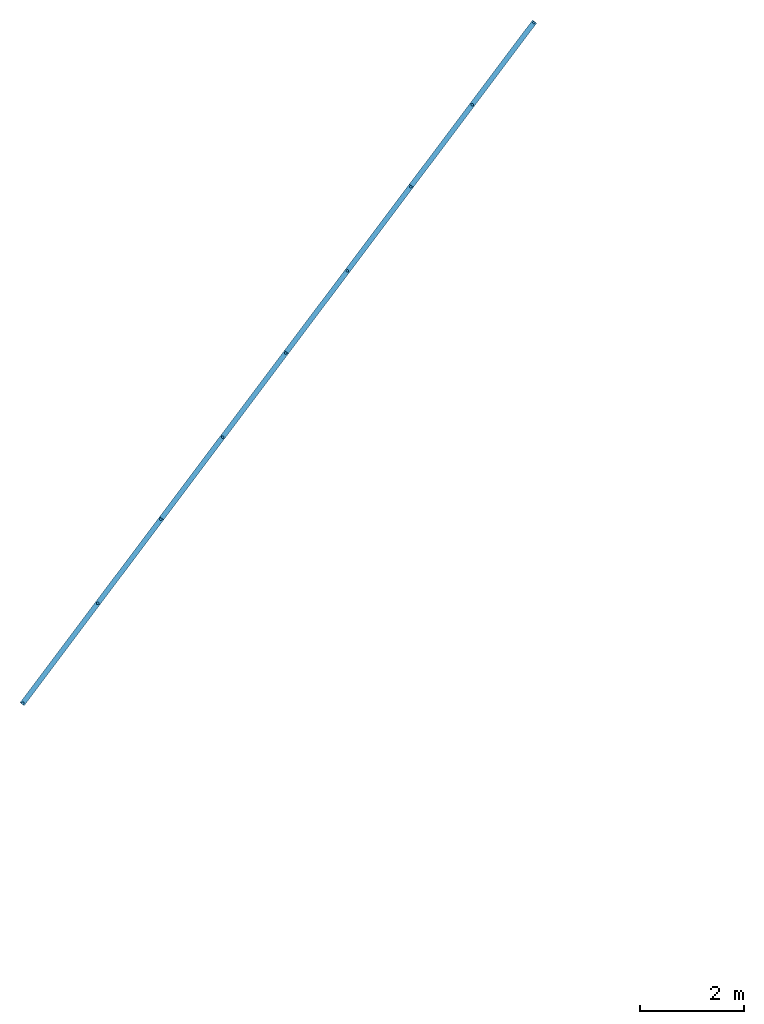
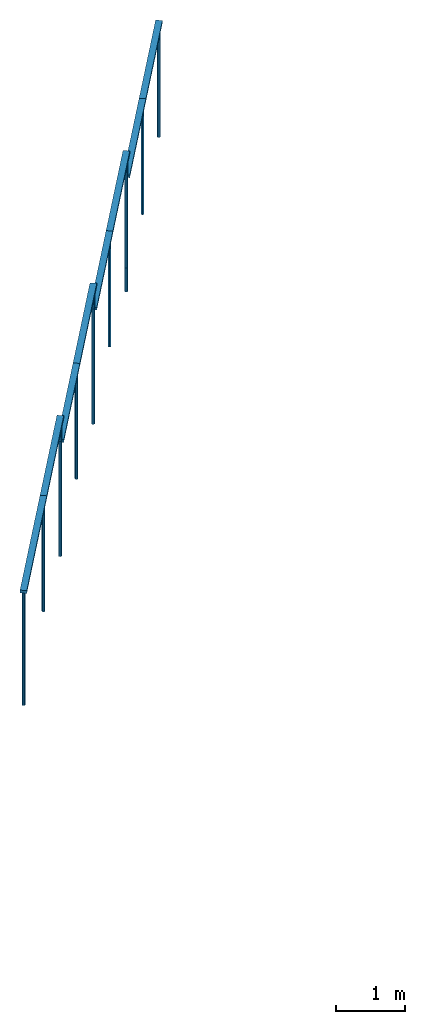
# One storey, part 1 of 3: 20 members, 4 elements without a shape of their own.
"""IFC2X3 building model written with IfcOpenShell, lengths in metres."""

from ifc_helpers import new_model, entity, si_unit, converted_unit, derived_unit, direction, frame, frame_2d, origin, origin_2d_with_axis, place, context, subcontext, project, spatial, rectangle, circle, extrude, source, transform, mapped, material, type_object, type_shapes, element, aggregate, save


model = new_model("IFC2X3")

# Units and contexts
model_context = context("Model", 3, precision=1e-05, world=origin(), true_north=direction((6.123031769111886e-17, 1.0)))
body_context = subcontext(model_context, "Body", "Model", "MODEL_VIEW")
ifc_project = project(units=[si_unit("LENGTHUNIT", "METRE"), si_unit("AREAUNIT", "SQUARE_METRE"), si_unit("VOLUMEUNIT", "CUBIC_METRE"), converted_unit("PLANEANGLEUNIT", "DEGREE", entity("IfcRatioMeasure", 0.017453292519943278), si_unit("PLANEANGLEUNIT", "RADIAN"), dimensions=[0, 0, 0, 0, 0, 0, 0]), si_unit("MASSUNIT", "GRAM", prefix="KILO"), derived_unit("MASSDENSITYUNIT", [(si_unit("MASSUNIT", "GRAM", prefix="KILO"), 1), (si_unit("LENGTHUNIT", "METRE"), -3)]), derived_unit("IONCONCENTRATIONUNIT", [(si_unit("MASSUNIT", "GRAM", prefix="KILO"), 1), (si_unit("LENGTHUNIT", "METRE"), -3)]), derived_unit("MOMENTOFINERTIAUNIT", [(si_unit("LENGTHUNIT", "METRE"), 4)]), si_unit("TIMEUNIT", "SECOND"), si_unit("FREQUENCYUNIT", "HERTZ"), si_unit("THERMODYNAMICTEMPERATUREUNIT", "DEGREE_CELSIUS"), derived_unit("THERMALTRANSMITTANCEUNIT", [(si_unit("MASSUNIT", "GRAM", prefix="KILO"), 1), (si_unit("THERMODYNAMICTEMPERATUREUNIT", "KELVIN"), -1), (si_unit("TIMEUNIT", "SECOND"), -3)]), derived_unit("THERMALCONDUCTANCEUNIT", [(si_unit("MASSUNIT", "GRAM", prefix="KILO"), 1), (si_unit("THERMODYNAMICTEMPERATUREUNIT", "KELVIN"), -1), (si_unit("TIMEUNIT", "SECOND"), -3), (si_unit("LENGTHUNIT", "METRE"), 1)]), derived_unit("VOLUMETRICFLOWRATEUNIT", [(si_unit("LENGTHUNIT", "METRE"), 3), (si_unit("TIMEUNIT", "SECOND"), -1)]), derived_unit("MASSFLOWRATEUNIT", [(si_unit("MASSUNIT", "GRAM", prefix="KILO"), 1), (si_unit("TIMEUNIT", "SECOND"), -1)]), derived_unit("ROTATIONALFREQUENCYUNIT", [(si_unit("TIMEUNIT", "SECOND"), -1)]), si_unit("ELECTRICCURRENTUNIT", "AMPERE"), si_unit("ELECTRICVOLTAGEUNIT", "VOLT"), si_unit("POWERUNIT", "WATT"), si_unit("FORCEUNIT", "NEWTON", prefix="KILO"), si_unit("ILLUMINANCEUNIT", "LUX"), si_unit("LUMINOUSFLUXUNIT", "LUMEN"), si_unit("LUMINOUSINTENSITYUNIT", "CANDELA"), derived_unit("USERDEFINED", [(si_unit("MASSUNIT", "GRAM", prefix="KILO"), -1), (si_unit("LENGTHUNIT", "METRE"), -2), (si_unit("TIMEUNIT", "SECOND"), 3), (si_unit("LUMINOUSFLUXUNIT", "LUMEN"), 1)]), derived_unit("USERDEFINED", [(si_unit("MASSUNIT", "GRAM", prefix="KILO"), 1), (si_unit("TIMEUNIT", "SECOND"), -3), (si_unit("LENGTHUNIT", "METRE"), 3), (si_unit("ELECTRICCURRENTUNIT", "AMPERE"), -2)]), derived_unit("SOUNDPOWERUNIT", [(si_unit("MASSUNIT", "GRAM", prefix="KILO"), 1), (si_unit("TIMEUNIT", "SECOND"), -3), (si_unit("LENGTHUNIT", "METRE"), 2)]), derived_unit("SOUNDPRESSUREUNIT", [(si_unit("MASSUNIT", "GRAM", prefix="KILO"), 1), (si_unit("LENGTHUNIT", "METRE"), -1), (si_unit("TIMEUNIT", "SECOND"), -2)]), derived_unit("LINEARVELOCITYUNIT", [(si_unit("LENGTHUNIT", "METRE"), 1), (si_unit("TIMEUNIT", "SECOND"), -1)]), si_unit("PRESSUREUNIT", "PASCAL"), derived_unit("USERDEFINED", [(si_unit("MASSUNIT", "GRAM", prefix="KILO"), 1), (si_unit("LENGTHUNIT", "METRE"), -2), (si_unit("TIMEUNIT", "SECOND"), -2)]), derived_unit("LINEARFORCEUNIT", [(si_unit("MASSUNIT", "GRAM", prefix="KILO"), 1), (si_unit("TIMEUNIT", "SECOND"), -2)]), derived_unit("PLANARFORCEUNIT", [(si_unit("MASSUNIT", "GRAM", prefix="KILO"), 1), (si_unit("LENGTHUNIT", "METRE"), -1), (si_unit("TIMEUNIT", "SECOND"), -2)]), derived_unit("SPECIFICHEATCAPACITYUNIT", [(si_unit("THERMODYNAMICTEMPERATUREUNIT", "KELVIN"), -1), (si_unit("LENGTHUNIT", "METRE"), 2), (si_unit("TIMEUNIT", "SECOND"), -2)]), derived_unit("HEATINGVALUEUNIT", [(si_unit("LENGTHUNIT", "METRE"), 2), (si_unit("TIMEUNIT", "SECOND"), -2)]), derived_unit("VAPORPERMEABILITYUNIT", [(si_unit("LENGTHUNIT", "METRE"), -1), (si_unit("TIMEUNIT", "SECOND"), 1)]), derived_unit("DYNAMICVISCOSITYUNIT", [(si_unit("MASSUNIT", "GRAM", prefix="KILO"), 1), (si_unit("TIMEUNIT", "SECOND"), -1), (si_unit("LENGTHUNIT", "METRE"), -1)]), derived_unit("THERMALEXPANSIONCOEFFICIENTUNIT", [(si_unit("THERMODYNAMICTEMPERATUREUNIT", "KELVIN"), -1)]), derived_unit("MODULUSOFELASTICITYUNIT", [(si_unit("MASSUNIT", "GRAM", prefix="KILO"), 1), (si_unit("LENGTHUNIT", "METRE"), -1), (si_unit("TIMEUNIT", "SECOND"), -2)]), derived_unit("ISOTHERMALMOISTURECAPACITYUNIT", [(si_unit("LENGTHUNIT", "METRE"), 3), (si_unit("MASSUNIT", "GRAM", prefix="KILO"), -1)]), derived_unit("MOISTUREDIFFUSIVITYUNIT", [(si_unit("TIMEUNIT", "SECOND"), -1), (si_unit("LENGTHUNIT", "METRE"), 2)])], contexts=[model_context])

# Site, building, storey
site_placement = place(None, origin())
site = spatial("IfcSite", under=ifc_project, at=site_placement, Name="Superficie", CompositionType="ELEMENT")
building_placement = place(site_placement, frame((0.0, 0.0, 235.0), z_axis=(0.0, 0.0, 1.0), x_axis=(-0.7996477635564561, 0.6004693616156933, 0.0)))
building = spatial("IfcBuilding", under=site, at=building_placement, CompositionType="ELEMENT")
storey_placement = place(building_placement, frame((0.0, 0.0, 3.400000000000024)))
storey = spatial("IfcBuildingStorey", under=building, at=storey_placement, Name="PC- Coberta STR", CompositionType="ELEMENT", Elevation=3.400000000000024)

# Curtain wall, member
curtain_wall_type = type_object("IfcCurtainWallType", Name="Muro cortina:SER EXT- Tanca exterior", PredefinedType="NOTDEFINED")
curtain_wall_1_placement = place(storey_placement, frame((0.0, 0.0, -3.400000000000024)))
curtain_wall_1 = element("IfcCurtainWall", 1, at=curtain_wall_1_placement, inside=storey, type_object=curtain_wall_type, Name="Muro cortina:SER EXT- Tanca exterior", ObjectType="Muro cortina:SER EXT- Tanca exterior")
ifc_material_1 = material(Name="Acero inoxidable")
member_type_1 = type_object("IfcMemberType", Name="Montante circular:Perfil Tanca exterior", PredefinedType="MULLION", material=ifc_material_1)
shared_shape_1 = source(origin(), body_context, "Body", "SweptSolid", [
    extrude(circle(Radius=0.025, at=frame_2d((-2.1149748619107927e-18, -4.0388614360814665e-17), x_axis=(1.0, 0.0))), frame((0.0, 0.0, -2.0), z_axis=(0.0, 0.0, 1.0), x_axis=(-1.0, 0.0, 0.0)), (0.0, 0.0, 1.0), 1.9999999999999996),
])
type_shapes(member_type_1, [shared_shape_1])
member_1_placement = place(curtain_wall_1_placement, frame((79.69492201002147, -20.147288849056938, 2.6399999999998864), z_axis=(0.0, 0.0, -1.0), x_axis=(0.0, -1.0, 0.0)))
member_1 = element("IfcMember", 2, at=member_1_placement, type_object=member_type_1, material=ifc_material_1, Name="Montante circular:Perfil Tanca exterior", ObjectType="Montante circular:Perfil Tanca exterior", context=body_context, shape_type="MappedRepresentation", body=[
    mapped(shared_shape_1, transform((0.0, 0.0, 0.0), scale=1.0)),
])

curtain_wall_2_placement = place(storey_placement, frame((0.0, 0.0, -3.400000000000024)))
curtain_wall_2 = element("IfcCurtainWall", 3, at=curtain_wall_2_placement, inside=storey, type_object=curtain_wall_type, Name="Muro cortina:SER EXT- Tanca exterior", ObjectType="Muro cortina:SER EXT- Tanca exterior")
member_2_placement = place(curtain_wall_2_placement, frame((79.69492201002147, -24.147288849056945, 2.2109999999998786), z_axis=(0.0, 0.0, -1.0), x_axis=(0.0, -1.0, 0.0)))
member_2 = element("IfcMember", 4, at=member_2_placement, type_object=member_type_1, material=ifc_material_1, Name="Montante circular:Perfil Tanca exterior", ObjectType="Montante circular:Perfil Tanca exterior", context=body_context, shape_type="MappedRepresentation", body=[
    mapped(shared_shape_1, transform((0.0, 0.0, 0.0), scale=1.0)),
])

curtain_wall_3_placement = place(storey_placement, frame((0.0, 0.0, -3.400000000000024)))
curtain_wall_3 = element("IfcCurtainWall", 5, at=curtain_wall_3_placement, inside=storey, type_object=curtain_wall_type, Name="Muro cortina:SER EXT- Tanca exterior", ObjectType="Muro cortina:SER EXT- Tanca exterior")
member_3_placement = place(curtain_wall_3_placement, frame((79.69492201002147, -28.147288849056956, 1.782999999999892), z_axis=(0.0, 0.0, -1.0), x_axis=(0.0, -1.0, 0.0)))
member_3 = element("IfcMember", 6, at=member_3_placement, type_object=member_type_1, material=ifc_material_1, Name="Montante circular:Perfil Tanca exterior", ObjectType="Montante circular:Perfil Tanca exterior", context=body_context, shape_type="MappedRepresentation", body=[
    mapped(shared_shape_1, transform((0.0, 0.0, 0.0), scale=1.0)),
])

# Curtain wall, members
curtain_wall_4_placement = place(storey_placement, frame((0.0, 0.0, -3.400000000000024)))
curtain_wall_4 = element("IfcCurtainWall", 7, at=curtain_wall_4_placement, inside=storey, type_object=curtain_wall_type, Name="Muro cortina:SER EXT- Tanca exterior", ObjectType="Muro cortina:SER EXT- Tanca exterior")
member_4_placement = place(curtain_wall_4_placement, frame((79.69492201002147, -16.14728884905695, 3.0679999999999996), z_axis=(0.0, 0.0, -1.0), x_axis=(0.0, 1.0, 0.0)))
member_4 = element("IfcMember", 8, at=member_4_placement, type_object=member_type_1, material=ifc_material_1, Name="Montante circular:Perfil Tanca exterior", ObjectType="Montante circular:Perfil Tanca exterior", context=body_context, shape_type="MappedRepresentation", body=[
    mapped(shared_shape_1, transform((0.0, 0.0, 0.0), scale=1.0)),
])
member_type_2 = type_object("IfcMemberType", Name="Montante circular:Perfil Tanca exterior", PredefinedType="MULLION", material=ifc_material_1)
shared_shape_2 = source(origin(), body_context, "Body", "SweptSolid", [
    extrude(circle(Radius=0.025, at=frame_2d((-1.304992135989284e-31, 4.038861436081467e-17), x_axis=(1.0, 0.0))), frame((-0.025, 0.0, -2.0)), (0.0, 0.0, 1.0), 1.9999999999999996),
])
type_shapes(member_type_2, [shared_shape_2])
member_5_placement = place(curtain_wall_4_placement, frame((79.69492201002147, -18.197288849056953, 5.067999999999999), z_axis=(0.0, 0.0, 1.0), x_axis=(0.0, -1.0, 0.0)))
member_5 = element("IfcMember", 9, at=member_5_placement, type_object=member_type_2, material=ifc_material_1, Name="Montante circular:Perfil Tanca exterior", ObjectType="Montante circular:Perfil Tanca exterior", context=body_context, shape_type="MappedRepresentation", body=[
    mapped(shared_shape_2, transform((0.0, 0.0, 0.0), scale=1.0)),
])

# Member
member_type_3 = type_object("IfcMemberType", Name="Montante circular:Perfil Tanca exterior", PredefinedType="MULLION", material=ifc_material_1)
shared_shape_3 = source(origin(), body_context, "Body", "SweptSolid", [
    extrude(circle(Radius=0.025, at=frame_2d((1.3661718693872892e-31, -4.46185640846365e-17), x_axis=(1.0, 0.0))), frame((-0.025, 0.0, -2.0), z_axis=(0.0, 0.0, 1.0), x_axis=(-1.0, 0.0, 0.0)), (0.0, 0.0, 1.0), 1.9999999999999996),
])
type_shapes(member_type_3, [shared_shape_3])
member_6_placement = place(curtain_wall_1_placement, frame((79.69492201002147, -22.19728884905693, 2.6399999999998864), z_axis=(0.0, 0.0, -1.0), x_axis=(0.0, -1.0, 0.0)))
member_6 = element("IfcMember", 10, at=member_6_placement, type_object=member_type_3, material=ifc_material_1, Name="Montante circular:Perfil Tanca exterior", ObjectType="Montante circular:Perfil Tanca exterior", context=body_context, shape_type="MappedRepresentation", body=[
    mapped(shared_shape_3, transform((0.0, 0.0, 0.0), scale=1.0)),
])

member_7_placement = place(curtain_wall_2_placement, frame((79.69492201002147, -26.197288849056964, 2.2109999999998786), z_axis=(0.0, 0.0, -1.0), x_axis=(0.0, -1.0, 0.0)))
member_7 = element("IfcMember", 11, at=member_7_placement, type_object=member_type_3, material=ifc_material_1, Name="Montante circular:Perfil Tanca exterior", ObjectType="Montante circular:Perfil Tanca exterior", context=body_context, shape_type="MappedRepresentation", body=[
    mapped(shared_shape_3, transform((0.0, 0.0, 0.0), scale=1.0)),
])

member_8_placement = place(curtain_wall_3_placement, frame((79.69492201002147, -30.147288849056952, 1.782999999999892), z_axis=(0.0, 0.0, -1.0), x_axis=(0.0, -1.0, 0.0)))
member_8 = element("IfcMember", 12, at=member_8_placement, type_object=member_type_3, material=ifc_material_1, Name="Montante circular:Perfil Tanca exterior", ObjectType="Montante circular:Perfil Tanca exterior", context=body_context, shape_type="MappedRepresentation", body=[
    mapped(shared_shape_3, transform((0.0, 0.0, 0.0), scale=1.0)),
])

member_9_placement = place(curtain_wall_4_placement, frame((79.69492201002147, -13.723779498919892, 3.0679999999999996), z_axis=(0.0, 0.0, -1.0), x_axis=(0.0, 1.0, 0.0)))
member_9 = element("IfcMember", 13, at=member_9_placement, type_object=member_type_3, material=ifc_material_1, Name="Montante circular:Perfil Tanca exterior", ObjectType="Montante circular:Perfil Tanca exterior", context=body_context, shape_type="MappedRepresentation", body=[
    mapped(shared_shape_3, transform((0.0, 0.0, 0.0), scale=1.0)),
])

ifc_material_2 = material(Name="_Formigó- Solera- T1- STR")
member_type_4 = type_object("IfcMemberType", Name="Montante rectangular:Montante rectangular 100x50", PredefinedType="MULLION", material=ifc_material_2)
shared_shape_4 = source(origin(), body_context, "Body", "SweptSolid", [
    extrude(rectangle(XDim=0.1, YDim=0.05000000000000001, at=origin_2d_with_axis()), frame((-0.025000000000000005, 0.0, -1.999999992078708), z_axis=(0.0, 0.0, 1.0), x_axis=(0.0, -1.0, 0.0)), (0.0, 0.0, 1.0), 1.9999999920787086),
])
type_shapes(member_type_4, [shared_shape_4])
member_10_placement = place(curtain_wall_3_placement, frame((79.69492201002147, -30.147288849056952, 3.832999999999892), z_axis=(0.0, -1.0, 0.0), x_axis=(0.0, 0.0, 1.0)))
member_10 = element("IfcMember", 14, at=member_10_placement, type_object=member_type_4, material=ifc_material_2, Name="Montante rectangular:Montante rectangular 100x50", ObjectType="Montante rectangular:Montante rectangular 100x50", context=body_context, shape_type="MappedRepresentation", body=[
    mapped(shared_shape_4, transform((0.0, 0.0, 0.0), scale=1.0)),
])

member_type_5 = type_object("IfcMemberType", Name="Montante rectangular:Montante rectangular 100x50", PredefinedType="MULLION", material=ifc_material_2)
shared_shape_5 = source(origin(), body_context, "Body", "SweptSolid", [
    extrude(rectangle(XDim=0.1, YDim=0.05000000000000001, at=origin_2d_with_axis()), frame((-0.025000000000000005, 0.0, -2.0499999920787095), z_axis=(0.0, 0.0, 1.0), x_axis=(0.0, -1.0, 0.0)), (0.0, 0.0, 1.0), 2.04999999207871),
])
type_shapes(member_type_5, [shared_shape_5])
member_11_placement = place(curtain_wall_4_placement, frame((79.69492201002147, -16.14728884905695, 5.117999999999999), z_axis=(0.0, 1.0, 0.0), x_axis=(0.0, 0.0, 1.0)))
member_11 = element("IfcMember", 15, at=member_11_placement, type_object=member_type_5, material=ifc_material_2, Name="Montante rectangular:Montante rectangular 100x50", ObjectType="Montante rectangular:Montante rectangular 100x50", context=body_context, shape_type="MappedRepresentation", body=[
    mapped(shared_shape_5, transform((0.0, 0.0, 0.0), scale=1.0)),
])

member_type_6 = type_object("IfcMemberType", Name="Montante circular:Perfil Tanca exterior", PredefinedType="MULLION", material=ifc_material_1)
shared_shape_6 = source(origin(), body_context, "Body", "SweptSolid", [
    extrude(circle(Radius=0.025, at=frame_2d((-1.304992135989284e-31, 4.038861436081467e-17), x_axis=(1.0, 0.0))), frame((-0.025, 0.0, -2.0500000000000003)), (0.0, 0.0, 1.0), 2.0500000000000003),
])
type_shapes(member_type_6, [shared_shape_6])
member_12_placement = place(curtain_wall_1_placement, frame((79.69492201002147, -18.14728884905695, 4.689999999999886), z_axis=(0.0, 0.0, 1.0), x_axis=(0.0, 1.0, 0.0)))
member_12 = element("IfcMember", 16, at=member_12_placement, type_object=member_type_6, material=ifc_material_1, Name="Montante circular:Perfil Tanca exterior", ObjectType="Montante circular:Perfil Tanca exterior", context=body_context, shape_type="MappedRepresentation", body=[
    mapped(shared_shape_6, transform((0.0, 0.0, 0.0), scale=1.0)),
])

member_13_placement = place(curtain_wall_2_placement, frame((79.69492201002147, -22.14728884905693, 4.260999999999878), z_axis=(0.0, 0.0, 1.0), x_axis=(0.0, 1.0, 0.0)))
member_13 = element("IfcMember", 17, at=member_13_placement, type_object=member_type_6, material=ifc_material_1, Name="Montante circular:Perfil Tanca exterior", ObjectType="Montante circular:Perfil Tanca exterior", context=body_context, shape_type="MappedRepresentation", body=[
    mapped(shared_shape_6, transform((0.0, 0.0, 0.0), scale=1.0)),
])

member_14_placement = place(curtain_wall_3_placement, frame((79.69492201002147, -26.147288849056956, 3.832999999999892), z_axis=(0.0, 0.0, 1.0), x_axis=(0.0, 1.0, 0.0)))
member_14 = element("IfcMember", 18, at=member_14_placement, type_object=member_type_6, material=ifc_material_1, Name="Montante circular:Perfil Tanca exterior", ObjectType="Montante circular:Perfil Tanca exterior", context=body_context, shape_type="MappedRepresentation", body=[
    mapped(shared_shape_6, transform((0.0, 0.0, 0.0), scale=1.0)),
])

member_type_7 = type_object("IfcMemberType", Name="Montante rectangular:Montante rectangular 100x50", PredefinedType="MULLION", material=ifc_material_2)
shared_shape_7 = source(origin(), body_context, "Body", "SweptSolid", [
    extrude(rectangle(XDim=0.1, YDim=0.05000000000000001, at=origin_2d_with_axis()), frame((-0.025000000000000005, 0.0, -2.049999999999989), z_axis=(0.0, 0.0, 1.0), x_axis=(0.0, -1.0, 0.0)), (0.0, 0.0, 1.0), 2.049999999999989),
])
type_shapes(member_type_7, [shared_shape_7])
member_15_placement = place(curtain_wall_1_placement, frame((79.69492201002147, -22.19728884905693, 4.689999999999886), z_axis=(0.0, -1.0, 0.0), x_axis=(0.0, 0.0, 1.0)))
member_15 = element("IfcMember", 19, at=member_15_placement, type_object=member_type_7, material=ifc_material_2, Name="Montante rectangular:Montante rectangular 100x50", ObjectType="Montante rectangular:Montante rectangular 100x50", context=body_context, shape_type="MappedRepresentation", body=[
    mapped(shared_shape_7, transform((0.0, 0.0, 0.0), scale=1.0)),
])

member_16_placement = place(curtain_wall_2_placement, frame((79.69492201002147, -26.197288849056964, 4.260999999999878), z_axis=(0.0, -1.0, 0.0), x_axis=(0.0, 0.0, 1.0)))
member_16 = element("IfcMember", 20, at=member_16_placement, type_object=member_type_7, material=ifc_material_2, Name="Montante rectangular:Montante rectangular 100x50", ObjectType="Montante rectangular:Montante rectangular 100x50", context=body_context, shape_type="MappedRepresentation", body=[
    mapped(shared_shape_7, transform((0.0, 0.0, 0.0), scale=1.0)),
])

member_type_8 = type_object("IfcMemberType", Name="Montante rectangular:Montante rectangular 100x50", PredefinedType="MULLION", material=ifc_material_2)
shared_shape_8 = source(origin(), body_context, "Body", "SweptSolid", [
    extrude(rectangle(XDim=0.1, YDim=0.05000000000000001, at=origin_2d_with_axis()), frame((-0.025000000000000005, 0.0, -1.9500000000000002), z_axis=(0.0, 0.0, 1.0), x_axis=(0.0, -1.0, 0.0)), (0.0, 0.0, 1.0), 1.9500000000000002),
])
type_shapes(member_type_8, [shared_shape_8])
member_17_placement = place(curtain_wall_1_placement, frame((79.69492201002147, -20.147288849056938, 4.689999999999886), z_axis=(0.0, -1.0, 0.0), x_axis=(0.0, 0.0, 1.0)))
member_17 = element("IfcMember", 21, at=member_17_placement, type_object=member_type_8, material=ifc_material_2, Name="Montante rectangular:Montante rectangular 100x50", ObjectType="Montante rectangular:Montante rectangular 100x50", context=body_context, shape_type="MappedRepresentation", body=[
    mapped(shared_shape_8, transform((0.0, 0.0, 0.0), scale=1.0)),
])

aggregate(curtain_wall_1, [member_12, member_1, member_6, member_15, member_17])

member_18_placement = place(curtain_wall_2_placement, frame((79.69492201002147, -24.147288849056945, 4.260999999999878), z_axis=(0.0, -1.0, 0.0), x_axis=(0.0, 0.0, 1.0)))
member_18 = element("IfcMember", 22, at=member_18_placement, type_object=member_type_8, material=ifc_material_2, Name="Montante rectangular:Montante rectangular 100x50", ObjectType="Montante rectangular:Montante rectangular 100x50", context=body_context, shape_type="MappedRepresentation", body=[
    mapped(shared_shape_8, transform((0.0, 0.0, 0.0), scale=1.0)),
])

aggregate(curtain_wall_2, [member_13, member_2, member_7, member_16, member_18])

member_19_placement = place(curtain_wall_3_placement, frame((79.69492201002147, -28.147288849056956, 3.832999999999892), z_axis=(0.0, -1.0, 0.0), x_axis=(0.0, 0.0, 1.0)))
member_19 = element("IfcMember", 23, at=member_19_placement, type_object=member_type_8, material=ifc_material_2, Name="Montante rectangular:Montante rectangular 100x50", ObjectType="Montante rectangular:Montante rectangular 100x50", context=body_context, shape_type="MappedRepresentation", body=[
    mapped(shared_shape_8, transform((0.0, 0.0, 0.0), scale=1.0)),
])

aggregate(curtain_wall_3, [member_14, member_3, member_8, member_10, member_19])

member_type_9 = type_object("IfcMemberType", Name="Montante rectangular:Montante rectangular 100x50", PredefinedType="MULLION", material=ifc_material_2)
shared_shape_9 = source(origin(), body_context, "Body", "SweptSolid", [
    extrude(rectangle(XDim=0.1, YDim=0.05000000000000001, at=origin_2d_with_axis()), frame((-0.025000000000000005, 0.0, -2.4235093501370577), z_axis=(0.0, 0.0, 1.0), x_axis=(0.0, -1.0, 0.0)), (0.0, 0.0, 1.0), 2.4235093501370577),
])
type_shapes(member_type_9, [shared_shape_9])
member_20_placement = place(curtain_wall_4_placement, frame((79.69492201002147, -13.723779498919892, 5.117999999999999), z_axis=(0.0, 1.0, 0.0), x_axis=(0.0, 0.0, 1.0)))
member_20 = element("IfcMember", 24, at=member_20_placement, type_object=member_type_9, material=ifc_material_2, Name="Montante rectangular:Montante rectangular 100x50", ObjectType="Montante rectangular:Montante rectangular 100x50", context=body_context, shape_type="MappedRepresentation", body=[
    mapped(shared_shape_9, transform((0.0, 0.0, 0.0), scale=1.0)),
])

aggregate(curtain_wall_4, [member_9, member_4, member_20, member_11, member_5])

save(model, "model.ifc")
